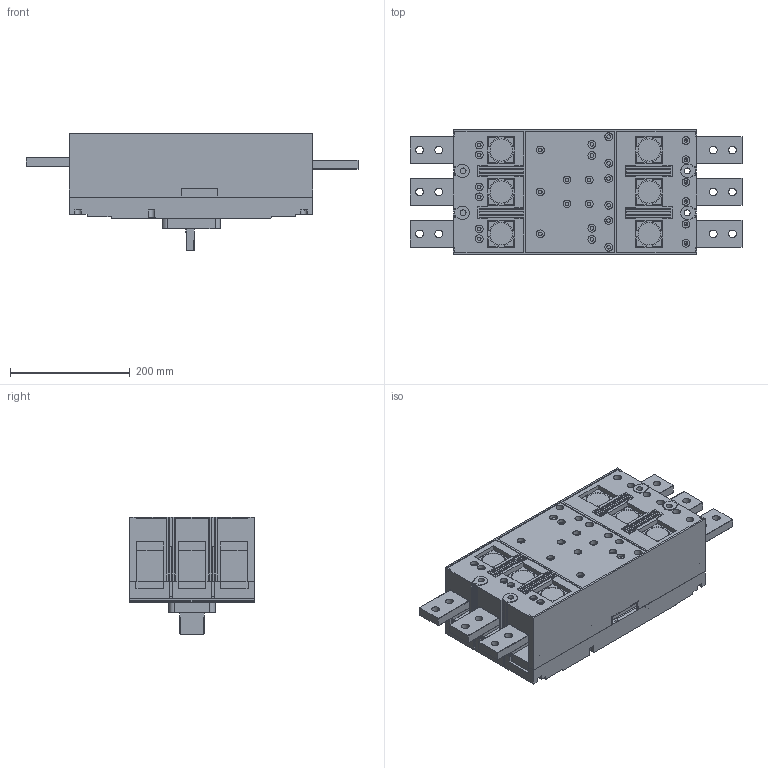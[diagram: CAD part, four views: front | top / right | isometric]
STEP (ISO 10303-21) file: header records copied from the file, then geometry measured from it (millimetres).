
FILE_DESCRIPTION(/* description */ (''),/* implementation_level */ '2;1');
FILE_NAME(/* name */ 'TGM1N-1250-3P 2024.07.26.stp',/* time_stamp */ '2024-07-26T14:14:25+08:00',/* author */ (''),/* organization */ (''),/* preprocessor_version */ 'ST-DEVELOPER v16',/* originating_system */ 'SIEMENS PLM Software NX 10.0',/* authorisation */ '');
FILE_SCHEMA (('AUTOMOTIVE_DESIGN { 1 0 10303 214 3 1 1 1 }'));
Products named in the file (8): 8TZD-253-1008_39_2; 8TZD-315-1023_59_6; 5TZD-024-1008_11_4; 8TZD-585-1014_10; 8TZD-585-1013_14; ASM0004_ASM_1_ASM_3_ASM; TGM1-1250_ASM_4_ASM; TGM1N-1250-3P_1__stp
Assembly tree (11 placements, depth 4):
  TGM1N-1250-3P_1__stp
    TGM1-1250_ASM_4_ASM
      ASM0004_ASM_1_ASM_3_ASM
        5TZD-024-1008_11_4
        8TZD-315-1023_59_6
        8TZD-253-1008_39_2
      8TZD-585-1013_14  x3
      8TZD-585-1014_10  x3
Bounding box: 554 x 208 x 196 mm (x, y, z)
Volume: 9070053.7 mm3; surface area: 1083498.5 mm2
Topology: 9 solids, 31 shells, 2499 faces, 6768 edges, 4514 vertices
Faces by surface type: plane 1891, cylinder 519, extrusion 43, cone 20, torus 16, bspline 6, sphere 4
Entity records: 77337 total; most frequent: CARTESIAN_POINT 14992, ORIENTED_EDGE 13100, DIRECTION 12423, EDGE_CURVE 6550, VECTOR 5279, LINE 5236, VERTEX_POINT 4378, AXIS2_PLACEMENT_3D 3572
